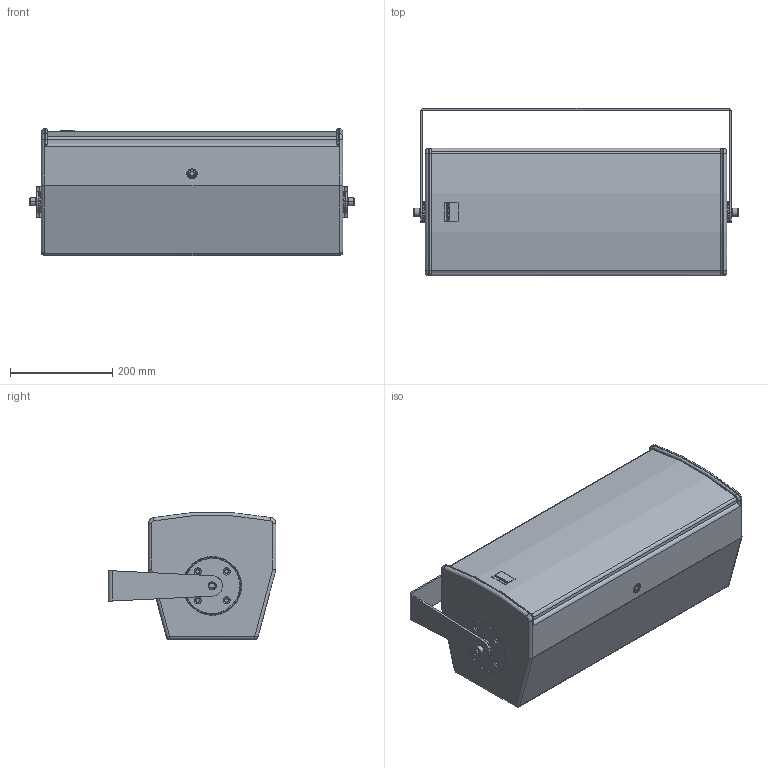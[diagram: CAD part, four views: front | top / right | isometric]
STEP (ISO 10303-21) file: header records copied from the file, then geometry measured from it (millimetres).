
FILE_DESCRIPTION (( 'STEP AP203' ), '1' );
FILE_NAME ('SEEBURG_A3_Bracket-hor.STEP', '2012-09-27T13:36:08', ( 'Fabian' ), ( '' ), 'SwSTEP 2.0', 'SolidWorks 2009', '' );
FILE_SCHEMA (( 'CONFIG_CONTROL_DESIGN' ));
Length unit declared in the file: millimetre
Products named in the file (2): A3_Bracket-hor; SEEBURG_A3_Bracket-hor
Assembly tree (1 placements, depth 2):
  SEEBURG_A3_Bracket-hor
    A3_Bracket-hor
Bounding box: 635.07 x 329 x 248.75 mm (x, y, z)
Volume: 10858616.7 mm3; surface area: 1664852.9 mm2
Topology: 21 solids, 21 shells, 511 faces, 1259 edges, 805 vertices
Faces by surface type: cylinder 214, plane 177, torus 54, cone 52, sphere 10, bspline 4
Entity records: 17334 total; most frequent: CARTESIAN_POINT 4896, DIRECTION 2656, ORIENTED_EDGE 2506, EDGE_CURVE 1253, AXIS2_PLACEMENT_3D 1024, VERTEX_POINT 801, VECTOR 608, LINE 608
